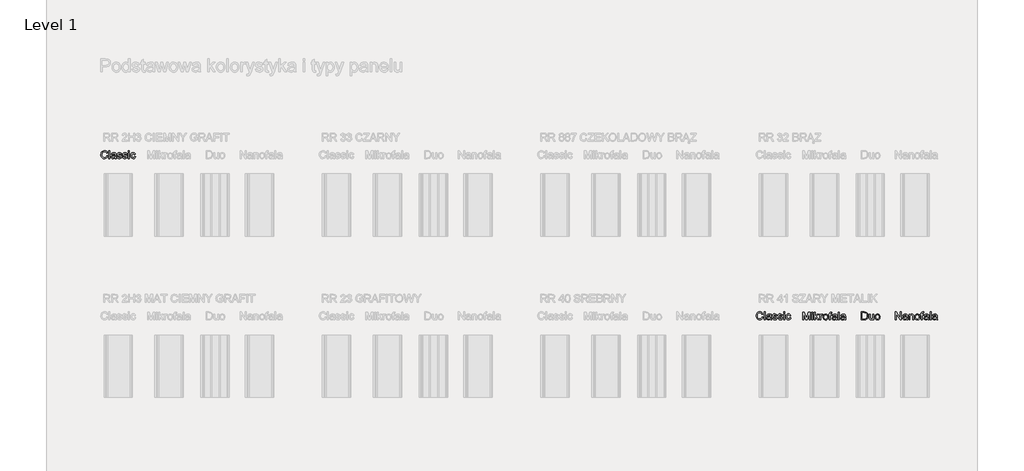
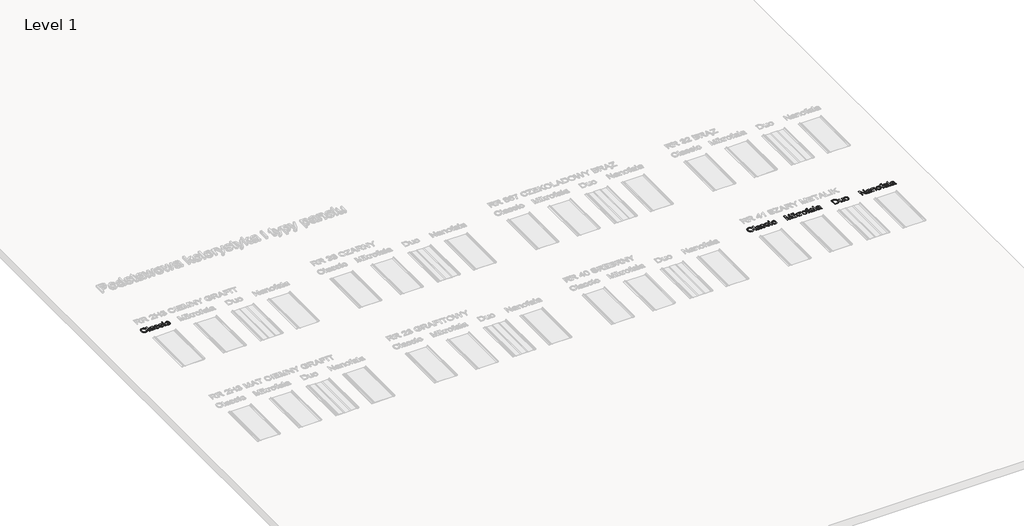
# One storey, part 16 of 22: 5 proxies.
"""IFC4 building model written with IfcOpenShell, lengths in millimetres."""

from ifc_helpers import new_model, si_unit, frame, origin, place, context, project, spatial, polyline, outline, extrude, element, save

model = new_model("IFC4")

# Units and contexts
model_context = context("Model", 3, world=origin())
ifc_project = project(units=[si_unit("LENGTHUNIT", "METRE", prefix="MILLI")], contexts=[model_context])

# Site, building, storey
site = spatial("IfcSite", under=ifc_project)
building = spatial("IfcBuilding", under=site)
storey = spatial("IfcBuildingStorey", under=building, Name="Level 1", Elevation=0.0)

# Proxies
placement = place(None, origin())
element("IfcBuildingElementProxy", 1, Name="150", ObjectType="150", at=placement, inside=storey, context=model_context, shape_type="SweptSolid", body=[
    extrude(outline(polyline([(-8679.0085992, 1182.8181359), (-8660.1730411, 1177.9620936), (-8668.8642532, 1156.013334), (-8682.5034782, 1139.9782776), (-8700.4193314, 1130.1696239), (-8721.9404281, 1126.9000726), (-8743.7880201, 1129.3740791), (-8761.1382547, 1136.7960983), (-8774.4371888, 1148.908613), (-8784.1308794, 1165.4541057), (-8790.049181, 1184.9058662), (-8792.0219482, 1205.7371842), (-8789.7916636, 1227.7089364), (-8783.1008098, 1246.6824503), (-8772.2988747, 1262.0553191), (-8757.7353462, 1273.2251362), (-8740.4632865, 1280.0263546), (-8721.5357579, 1282.2934274), (-8700.8837824, 1279.3595685), (-8683.8094593, 1270.5579918), (-8670.8462175, 1256.4313231), (-8662.5274859, 1237.5221886), (-8681.363044, 1233.0340282), (-8687.8929494, 1246.7698222), (-8696.8140878, 1256.1921998), (-8708.2368238, 1261.6414519), (-8722.2715219, 1263.4578692), (-8738.4491326, 1261.4437153), (-8751.7388697, 1255.4012536), (-8761.8234349, 1245.9650804), (-8768.38553, 1233.7697922), (-8773.18639, 1205.7739724), (-8771.7654458, 1188.373154), (-8767.5026132, 1173.3267804), (-8760.2369438, 1161.2096672), (-8749.8074892, 1152.59663), (-8737.3040999, 1147.4508806), (-8723.8166263, 1145.7356308), (-8708.0942695, 1148.0716815), (-8694.9930719, 1155.0798335), (-8685.1016448, 1166.6865104), (-8679.0085992, 1182.8181359)])), frame((0.0, 0.0, 600.0), z_axis=(0.0, 0.0, 1.0), x_axis=(1.0, 0.0, 0.0)), (0.0, 0.0, 1.0), 10.0),
    extrude(outline(polyline([(-8636.6285934, 1129.2545174), (-8636.6285934, 1279.9389826), (-8617.7930352, 1279.9389826), (-8617.7930352, 1129.2545174), (-8636.6285934, 1129.2545174)])), frame((0.0, 0.0, 600.0), z_axis=(0.0, 0.0, 1.0), x_axis=(1.0, 0.0, 0.0)), (0.0, 0.0, 1.0), 10.0),
    extrude(outline(polyline([(-8518.9063549, 1143.381186), (-8537.171696, 1130.6156808), (-8557.3500234, 1126.9000726), (-8573.0907743, 1129.1349558), (-8584.7020498, 1135.8396051), (-8591.8619531, 1146.0207393), (-8594.2485875, 1158.685077), (-8590.643344, 1173.5842978), (-8581.1703826, 1184.4000285), (-8567.9818131, 1190.580446), (-8551.6846407, 1193.4131374), (-8519.0167195, 1199.8878605), (-8518.9063549, 1204.0817152), (-8520.203139, 1212.4878188), (-8524.0934911, 1217.9876546), (-8532.7939003, 1222.0711448), (-8544.915612, 1223.4323082), (-8563.9718993, 1219.8086705), (-8573.0585846, 1206.9511948), (-8591.8941428, 1209.3056396), (-8583.7455566, 1227.6997393), (-8567.3380196, 1238.4786818), (-8542.4875908, 1242.2678663), (-8519.660513, 1238.9201402), (-8506.7662491, 1230.5140366), (-8500.9905018, 1217.7301372), (-8500.0707968, 1201.2490239), (-8500.0707968, 1177.8149408), (-8499.1143036, 1145.0918373), (-8495.3619072, 1129.2545174), (-8514.1974654, 1129.2545174), (-8518.9063549, 1143.381186)]), holes=[polyline([(-8518.9063549, 1181.0523023), (-8549.2934077, 1175.276555), (-8565.4986096, 1172.2231344), (-8572.8378554, 1167.2567275), (-8575.4130294, 1160.0094522), (-8569.802829, 1149.8191209), (-8553.3401097, 1145.7356308), (-8534.2838223, 1150.2421852), (-8521.9965637, 1161.1498864), (-8519.0167195, 1175.7180134), (-8518.9063549, 1181.0523023)])]), frame((0.0, 0.0, 600.0), z_axis=(0.0, 0.0, 1.0), x_axis=(1.0, 0.0, 0.0)), (0.0, 0.0, 1.0), 10.0),
    extrude(outline(polyline([(-8481.2352386, 1162.2167442), (-8462.3996805, 1164.5711889), (-8459.4290334, 1156.5145732), (-8453.6808772, 1150.5916731), (-8433.7048849, 1145.7356308), (-8414.5014447, 1150.1870029), (-8408.2474508, 1160.6348516), (-8409.8201463, 1165.4357116), (-8414.5382329, 1169.0961375), (-8433.9256141, 1174.4672146), (-8462.2893159, 1183.6826586), (-8474.668545, 1194.4432069), (-8478.8807939, 1209.6367334), (-8475.4962795, 1223.6714315), (-8466.2624414, 1234.3951916), (-8454.2878825, 1239.9686039), (-8438.0826806, 1242.2678663), (-8415.1636323, 1238.5706523), (-8400.5955053, 1228.564262), (-8394.1207822, 1211.6600843), (-8412.9563403, 1209.3056396), (-8420.0380687, 1219.6983059), (-8436.6111526, 1223.4323082), (-8454.6373704, 1219.8638528), (-8460.0452357, 1211.5497197), (-8457.8011555, 1206.068278), (-8450.7746094, 1201.9112115), (-8434.5510134, 1197.9012977), (-8406.9046815, 1189.0353416), (-8394.0655999, 1178.9921632), (-8389.4118926, 1162.6214144), (-8394.8749403, 1144.5951966), (-8410.6386838, 1131.5169917), (-8433.9624023, 1126.9000726), (-8452.9543103, 1129.1257587), (-8466.8142644, 1135.8028169), (-8476.0664966, 1146.8576709), (-8481.2352386, 1162.2167442)])), frame((0.0, 0.0, 600.0), z_axis=(0.0, 0.0, 1.0), x_axis=(1.0, 0.0, 0.0)), (0.0, 0.0, 1.0), 10.0),
    extrude(outline(polyline([(-8375.285224, 1162.2167442), (-8356.4496659, 1164.5711889), (-8353.4790188, 1156.5145732), (-8347.7308626, 1150.5916731), (-8327.7548702, 1145.7356308), (-8308.5514301, 1150.1870029), (-8302.2974362, 1160.6348516), (-8303.8701317, 1165.4357116), (-8308.5882183, 1169.0961375), (-8327.9755994, 1174.4672146), (-8356.3393013, 1183.6826586), (-8368.7185304, 1194.4432069), (-8372.9307793, 1209.6367334), (-8369.5462649, 1223.6714315), (-8360.3124268, 1234.3951916), (-8348.3378679, 1239.9686039), (-8332.132666, 1242.2678663), (-8309.2136177, 1238.5706523), (-8294.6454907, 1228.564262), (-8288.1707676, 1211.6600843), (-8307.0063257, 1209.3056396), (-8314.0880541, 1219.6983059), (-8330.661138, 1223.4323082), (-8348.6873558, 1219.8638528), (-8354.0952211, 1211.5497197), (-8351.8511409, 1206.068278), (-8344.8245948, 1201.9112115), (-8328.6009988, 1197.9012977), (-8300.9546669, 1189.0353416), (-8288.1155853, 1178.9921632), (-8283.461878, 1162.6214144), (-8288.9249257, 1144.5951966), (-8304.6886691, 1131.5169917), (-8328.0123876, 1126.9000726), (-8347.0042956, 1129.1257587), (-8360.8642498, 1135.8028169), (-8370.116482, 1146.8576709), (-8375.285224, 1162.2167442)])), frame((0.0, 0.0, 600.0), z_axis=(0.0, 0.0, 1.0), x_axis=(1.0, 0.0, 0.0)), (0.0, 0.0, 1.0), 10.0),
    extrude(outline(polyline([(-8262.2718751, 1261.1034245), (-8262.2718751, 1279.9389826), (-8243.4363169, 1279.9389826), (-8243.4363169, 1261.1034245), (-8262.2718751, 1261.1034245)])), frame((0.0, 0.0, 600.0), z_axis=(0.0, 0.0, 1.0), x_axis=(1.0, 0.0, 0.0)), (0.0, 0.0, 1.0), 10.0),
    extrude(outline(polyline([(-8262.2718751, 1129.2545174), (-8262.2718751, 1239.9134216), (-8243.4363169, 1239.9134216), (-8243.4363169, 1129.2545174), (-8262.2718751, 1129.2545174)])), frame((0.0, 0.0, 600.0), z_axis=(0.0, 0.0, 1.0), x_axis=(1.0, 0.0, 0.0)), (0.0, 0.0, 1.0), 10.0),
    extrude(outline(polyline([(-8144.5496366, 1169.2800785), (-8125.7140785, 1166.9256337), (-8130.965594, 1150.1732074), (-8140.8340285, 1137.5134682), (-8154.39048, 1129.5534215), (-8170.7060465, 1126.9000726), (-8190.7418197, 1130.6018852), (-8206.4089941, 1141.7073229), (-8216.5211505, 1159.7289422), (-8219.8918693, 1184.1792993), (-8218.452531, 1200.9409227), (-8214.134516, 1215.467663), (-8206.8688466, 1227.1985001), (-8196.5865449, 1235.572414), (-8184.2854906, 1240.5940032), (-8170.9635639, 1242.2678663), (-8155.0480691, 1239.9686039), (-8142.3239506, 1233.0708164), (-8133.1958786, 1221.9423861), (-8128.0685233, 1206.9511948), (-8146.9040814, 1204.59675), (-8155.6412788, 1218.7050245), (-8170.8164111, 1223.4323082), (-8182.9887066, 1221.1054546), (-8192.6502075, 1214.1248937), (-8198.9547852, 1202.1135465), (-8201.0563111, 1184.6943341), (-8199.0007705, 1167.0405968), (-8192.8341485, 1154.987863), (-8183.3473916, 1148.0486888), (-8171.3314459, 1145.7356308), (-8161.5779745, 1147.1795676), (-8153.5811396, 1151.5113781), (-8147.7640056, 1158.8414269), (-8144.5496366, 1169.2800785)])), frame((0.0, 0.0, 600.0), z_axis=(0.0, 0.0, 1.0), x_axis=(1.0, 0.0, 0.0)), (0.0, 0.0, 1.0), 10.0),
])
element("IfcBuildingElementProxy", 2, Name="150", ObjectType="150", at=placement, inside=storey, context=model_context, shape_type="SweptSolid", body=[
    extrude(outline(polyline([(3920.9914008, -1917.1818641), (3939.8269589, -1922.0379064), (3931.1357468, -1943.986666), (3917.4965218, -1960.0217224), (3899.5806686, -1969.8303761), (3878.0595719, -1973.0999274), (3856.2119799, -1970.6259209), (3838.8617453, -1963.2039017), (3825.5628112, -1951.091387), (3815.8691206, -1934.5458943), (3809.950819, -1915.0941338), (3807.9780518, -1894.2628158), (3810.2083364, -1872.2910636), (3816.8991902, -1853.3175497), (3827.7011253, -1837.9446809), (3842.2646538, -1826.7748638), (3859.5367135, -1819.9736454), (3878.4642421, -1817.7065726), (3899.1162176, -1820.6404315), (3916.1905407, -1829.4420082), (3929.1537825, -1843.5686769), (3937.4725141, -1862.4778114), (3918.636956, -1866.9659718), (3912.1070506, -1853.2301778), (3903.1859122, -1843.8078002), (3891.7631762, -1838.3585481), (3877.7284781, -1836.5421308), (3861.5508674, -1838.5562847), (3848.2611303, -1844.5987464), (3838.1765651, -1854.0349196), (3831.61447, -1866.2302078), (3826.81361, -1894.2260276), (3828.2345542, -1911.626846), (3832.4973868, -1926.6732196), (3839.7630562, -1938.7903328), (3850.1925108, -1947.40337), (3862.6959001, -1952.5491194), (3876.1833737, -1954.2643692), (3891.9057305, -1951.9283185), (3905.0069281, -1944.9201665), (3914.8983552, -1933.3134896), (3920.9914008, -1917.1818641)])), frame((0.0, 0.0, 600.0), z_axis=(0.0, 0.0, 1.0), x_axis=(1.0, 0.0, 0.0)), (0.0, 0.0, 1.0), 10.0),
    extrude(outline(polyline([(3963.3714066, -1970.7454826), (3963.3714066, -1820.0610174), (3982.2069648, -1820.0610174), (3982.2069648, -1970.7454826), (3963.3714066, -1970.7454826)])), frame((0.0, 0.0, 600.0), z_axis=(0.0, 0.0, 1.0), x_axis=(1.0, 0.0, 0.0)), (0.0, 0.0, 1.0), 10.0),
    extrude(outline(polyline([(4081.0936451, -1956.618814), (4062.828304, -1969.3843192), (4042.6499766, -1973.0999274), (4026.9092257, -1970.8650442), (4015.2979502, -1964.1603949), (4008.1380469, -1953.9792607), (4005.7514125, -1941.314923), (4009.356656, -1926.4157022), (4018.8296174, -1915.5999715), (4032.0181869, -1909.419554), (4048.3153593, -1906.5868626), (4080.9832805, -1900.1121395), (4081.0936451, -1895.9182848), (4079.796861, -1887.5121812), (4075.9065089, -1882.0123454), (4067.2060997, -1877.9288552), (4055.084388, -1876.5676918), (4036.0281007, -1880.1913295), (4026.9414154, -1893.0488052), (4008.1058572, -1890.6943604), (4016.2544434, -1872.3002607), (4032.6619804, -1861.5213182), (4057.5124092, -1857.7321337), (4080.339487, -1861.0798598), (4093.2337509, -1869.4859634), (4099.0094982, -1882.2698628), (4099.9292032, -1898.7509761), (4099.9292032, -1922.1850592), (4100.8856964, -1954.9081627), (4104.6380928, -1970.7454826), (4085.8025346, -1970.7454826), (4081.0936451, -1956.618814)]), holes=[polyline([(4081.0936451, -1918.9476977), (4050.7065923, -1924.723445), (4034.5013904, -1927.7768656), (4027.1621446, -1932.7432725), (4024.5869706, -1939.9905478), (4030.197171, -1950.1808791), (4046.6598903, -1954.2643692), (4065.7161777, -1949.7578148), (4078.0034363, -1938.8501136), (4080.9832805, -1924.2819866), (4081.0936451, -1918.9476977)])]), frame((0.0, 0.0, 600.0), z_axis=(0.0, 0.0, 1.0), x_axis=(1.0, 0.0, 0.0)), (0.0, 0.0, 1.0), 10.0),
    extrude(outline(polyline([(4118.7647614, -1937.7832558), (4137.6003195, -1935.4288111), (4140.5709666, -1943.4854268), (4146.3191228, -1949.4083269), (4166.2951151, -1954.2643692), (4185.4985553, -1949.8129971), (4191.7525492, -1939.3651484), (4190.1798537, -1934.5642884), (4185.4617671, -1930.9038625), (4166.0743859, -1925.5327854), (4137.7106841, -1916.3173414), (4125.331455, -1905.5567931), (4121.1192061, -1890.3632666), (4124.5037205, -1876.3285685), (4133.7375586, -1865.6048084), (4145.7121175, -1860.0313961), (4161.9173194, -1857.7321337), (4184.8363677, -1861.4293477), (4199.4044947, -1871.435738), (4205.8792178, -1888.3399157), (4187.0436597, -1890.6943604), (4179.9619313, -1880.3016941), (4163.3888474, -1876.5676918), (4145.3626296, -1880.1361472), (4139.9547643, -1888.4502803), (4142.1988445, -1893.931722), (4149.2253906, -1898.0887885), (4165.4489866, -1902.0987023), (4193.0953185, -1910.9646584), (4205.9344001, -1921.0078368), (4210.5881074, -1937.3785856), (4205.1250597, -1955.4048034), (4189.3613162, -1968.4830083), (4166.0375977, -1973.0999274), (4147.0456897, -1970.8742413), (4133.1857356, -1964.1971831), (4123.9335034, -1953.1423291), (4118.7647614, -1937.7832558)])), frame((0.0, 0.0, 600.0), z_axis=(0.0, 0.0, 1.0), x_axis=(1.0, 0.0, 0.0)), (0.0, 0.0, 1.0), 10.0),
    extrude(outline(polyline([(4224.714776, -1937.7832558), (4243.5503341, -1935.4288111), (4246.5209812, -1943.4854268), (4252.2691374, -1949.4083269), (4272.2451298, -1954.2643692), (4291.4485699, -1949.8129971), (4297.7025638, -1939.3651484), (4296.1298683, -1934.5642884), (4291.4117817, -1930.9038625), (4272.0244006, -1925.5327854), (4243.6606987, -1916.3173414), (4231.2814696, -1905.5567931), (4227.0692207, -1890.3632666), (4230.4537351, -1876.3285685), (4239.6875732, -1865.6048084), (4251.6621321, -1860.0313961), (4267.867334, -1857.7321337), (4290.7863823, -1861.4293477), (4305.3545093, -1871.435738), (4311.8292324, -1888.3399157), (4292.9936743, -1890.6943604), (4285.9119459, -1880.3016941), (4269.338862, -1876.5676918), (4251.3126442, -1880.1361472), (4245.9047789, -1888.4502803), (4248.1488591, -1893.931722), (4255.1754052, -1898.0887885), (4271.3990012, -1902.0987023), (4299.0453331, -1910.9646584), (4311.8844147, -1921.0078368), (4316.538122, -1937.3785856), (4311.0750743, -1955.4048034), (4295.3113309, -1968.4830083), (4271.9876124, -1973.0999274), (4252.9957044, -1970.8742413), (4239.1357502, -1964.1971831), (4229.883518, -1953.1423291), (4224.714776, -1937.7832558)])), frame((0.0, 0.0, 600.0), z_axis=(0.0, 0.0, 1.0), x_axis=(1.0, 0.0, 0.0)), (0.0, 0.0, 1.0), 10.0),
    extrude(outline(polyline([(4337.7281249, -1838.8965755), (4337.7281249, -1820.0610174), (4356.5636831, -1820.0610174), (4356.5636831, -1838.8965755), (4337.7281249, -1838.8965755)])), frame((0.0, 0.0, 600.0), z_axis=(0.0, 0.0, 1.0), x_axis=(1.0, 0.0, 0.0)), (0.0, 0.0, 1.0), 10.0),
    extrude(outline(polyline([(4337.7281249, -1970.7454826), (4337.7281249, -1860.0865784), (4356.5636831, -1860.0865784), (4356.5636831, -1970.7454826), (4337.7281249, -1970.7454826)])), frame((0.0, 0.0, 600.0), z_axis=(0.0, 0.0, 1.0), x_axis=(1.0, 0.0, 0.0)), (0.0, 0.0, 1.0), 10.0),
    extrude(outline(polyline([(4455.4503634, -1930.7199215), (4474.2859215, -1933.0743663), (4469.034406, -1949.8267926), (4459.1659715, -1962.4865318), (4445.60952, -1970.4465785), (4429.2939535, -1973.0999274), (4409.2581803, -1969.3981148), (4393.5910059, -1958.2926771), (4383.4788495, -1940.2710578), (4380.1081307, -1915.8207007), (4381.547469, -1899.0590773), (4385.865484, -1884.532337), (4393.1311534, -1872.8014999), (4403.4134551, -1864.427586), (4415.7145094, -1859.4059968), (4429.0364361, -1857.7321337), (4444.9519309, -1860.0313961), (4457.6760494, -1866.9291836), (4466.8041214, -1878.0576139), (4471.9314767, -1893.0488052), (4453.0959186, -1895.40325), (4444.3587212, -1881.2949755), (4429.1835889, -1876.5676918), (4417.0112934, -1878.8945454), (4407.3497925, -1885.8751063), (4401.0452148, -1897.8864535), (4398.9436889, -1915.3056659), (4400.9992295, -1932.9594032), (4407.1658515, -1945.012137), (4416.6526084, -1951.9513112), (4428.6685541, -1954.2643692), (4438.4220255, -1952.8204324), (4446.4188604, -1948.4886219), (4452.2359944, -1941.1585731), (4455.4503634, -1930.7199215)])), frame((0.0, 0.0, 600.0), z_axis=(0.0, 0.0, 1.0), x_axis=(1.0, 0.0, 0.0)), (0.0, 0.0, 1.0), 10.0),
])
element("IfcBuildingElementProxy", 3, Name="150", ObjectType="150", at=placement, inside=storey, context=model_context, shape_type="SweptSolid", body=[
    extrude(outline(polyline([(4704.3345041, -1975.281387), (4704.3345041, -1824.5969218), (4736.6345432, -1824.5969218), (4767.5366308, -1930.8044538), (4773.7906247, -1952.9877381), (4780.5228653, -1928.9650438), (4810.8363417, -1824.5969218), (4843.2467454, -1824.5969218), (4843.2467454, -1975.281387), (4824.4111873, -1975.281387), (4824.4111873, -1843.4324799), (4786.55613, -1975.281387), (4761.0619077, -1975.281387), (4723.1700622, -1843.4324799), (4723.1700622, -1975.281387), (4704.3345041, -1975.281387)])), frame((0.0, 0.0, 600.0), z_axis=(0.0, 0.0, 1.0), x_axis=(1.0, 0.0, 0.0)), (0.0, 0.0, 1.0), 10.0),
    extrude(outline(polyline([(4873.8545274, -1843.4324799), (4873.8545274, -1824.5969218), (4892.6900856, -1824.5969218), (4892.6900856, -1843.4324799), (4873.8545274, -1843.4324799)])), frame((0.0, 0.0, 600.0), z_axis=(0.0, 0.0, 1.0), x_axis=(1.0, 0.0, 0.0)), (0.0, 0.0, 1.0), 10.0),
    extrude(outline(polyline([(4873.8545274, -1975.281387), (4873.8545274, -1864.6224829), (4892.6900856, -1864.6224829), (4892.6900856, -1975.281387), (4873.8545274, -1975.281387)])), frame((0.0, 0.0, 600.0), z_axis=(0.0, 0.0, 1.0), x_axis=(1.0, 0.0, 0.0)), (0.0, 0.0, 1.0), 10.0),
    extrude(outline(polyline([(4920.9434228, -1975.281387), (4920.9434228, -1824.5969218), (4939.778981, -1824.5969218), (4939.778981, -1905.5677489), (4982.011834, -1864.6224829), (5008.0578793, -1864.6224829), (4965.2732032, -1906.0827837), (5010.412324, -1975.281387), (4988.4129807, -1975.281387), (4951.771934, -1919.1793827), (4939.778981, -1930.841242), (4939.778981, -1975.281387), (4920.9434228, -1975.281387)])), frame((0.0, 0.0, 600.0), z_axis=(0.0, 0.0, 1.0), x_axis=(1.0, 0.0, 0.0)), (0.0, 0.0, 1.0), 10.0),
    extrude(outline(polyline([(5026.8934374, -1975.281387), (5026.8934374, -1864.6224829), (5043.3745508, -1864.6224829), (5043.3745508, -1880.9932316), (5055.0731983, -1865.9100698), (5066.8454221, -1862.2680381), (5085.7545567, -1868.0805736), (5079.4637745, -1884.9663572), (5066.2200227, -1881.1035962), (5055.5698389, -1884.8192044), (5048.7824161, -1895.1199003), (5045.7289956, -1917.1192436), (5045.7289956, -1975.281387), (5026.8934374, -1975.281387)])), frame((0.0, 0.0, 600.0), z_axis=(0.0, 0.0, 1.0), x_axis=(1.0, 0.0, 0.0)), (0.0, 0.0, 1.0), 10.0),
    extrude(outline(polyline([(5092.817891, -1919.9519349), (5096.8921841, -1893.2712932), (5109.1150633, -1874.5185085), (5124.2166192, -1865.3306557), (5142.2980193, -1862.2680381), (5162.0854721, -1865.9974418), (5177.8906023, -1877.185653), (5188.251079, -1894.9497548), (5191.7045713, -1918.4068306), (5190.177861, -1937.4355268), (5185.5977301, -1951.9208803), (5178.097536, -1962.7688007), (5167.8106357, -1970.8851972), (5155.5923549, -1975.9481731), (5142.2980193, -1977.6358318), (5122.2714432, -1973.9202236), (5106.4847071, -1962.7733992), (5096.234595, -1944.6368168), (5092.817891, -1919.9519349)]), holes=[polyline([(5111.6534491, -1919.9151467), (5113.8331499, -1936.9618787), (5120.3722524, -1949.1065831), (5130.2130958, -1956.376851), (5142.2980193, -1958.8002736), (5154.3277606, -1956.3630554), (5164.1502098, -1949.0514008), (5170.6893123, -1936.745748), (5172.8690131, -1919.3265355), (5170.6755167, -1902.7764443), (5164.0950275, -1890.7972868), (5154.2587827, -1883.5270189), (5142.2980193, -1881.1035962), (5130.2130958, -1883.5178218), (5120.3722524, -1890.7604986), (5113.8331499, -1902.8776118), (5111.6534491, -1919.9151467)])]), frame((0.0, 0.0, 600.0), z_axis=(0.0, 0.0, 1.0), x_axis=(1.0, 0.0, 0.0)), (0.0, 0.0, 1.0), 10.0),
    extrude(outline(polyline([(5217.6034637, -1975.281387), (5217.6034637, -1883.458041), (5201.1223503, -1883.458041), (5201.1223503, -1864.6224829), (5217.6034637, -1864.6224829), (5217.6034637, -1853.4756584), (5219.5900265, -1837.7670972), (5229.2285348, -1826.5466964), (5248.2112457, -1822.242477), (5265.3913349, -1824.3026162), (5262.6322199, -1841.960952), (5251.7797011, -1841.0780352), (5239.9155067, -1844.2050321), (5236.4390219, -1855.8668914), (5236.4390219, -1864.6224829), (5257.6290248, -1864.6224829), (5257.6290248, -1883.458041), (5236.4390219, -1883.458041), (5236.4390219, -1975.281387), (5217.6034637, -1975.281387)])), frame((0.0, 0.0, 600.0), z_axis=(0.0, 0.0, 1.0), x_axis=(1.0, 0.0, 0.0)), (0.0, 0.0, 1.0), 10.0),
    extrude(outline(polyline([(5344.7434813, -1961.1547184), (5326.4781402, -1973.9202236), (5306.2998128, -1977.6358318), (5290.5590619, -1975.4009487), (5278.9477864, -1968.6962993), (5271.7878831, -1958.5151651), (5269.4012486, -1945.8508274), (5273.0064922, -1930.9516066), (5282.4794536, -1920.1358759), (5295.6680231, -1913.9554584), (5311.9651955, -1911.1227671), (5344.6331167, -1904.6480439), (5344.7434813, -1900.4541892), (5343.4466972, -1892.0480856), (5339.5563451, -1886.5482498), (5330.8559359, -1882.4647596), (5318.7342242, -1881.1035962), (5299.6779368, -1884.7272339), (5290.5912516, -1897.5847096), (5271.7556934, -1895.2302649), (5279.9042796, -1876.8361651), (5296.3118166, -1866.0572226), (5321.1622454, -1862.2680381), (5343.9893232, -1865.6157643), (5356.8835871, -1874.0218678), (5362.6593344, -1886.8057672), (5363.5790394, -1903.2868806), (5363.5790394, -1926.7209636), (5364.5355326, -1959.4440671), (5368.2879289, -1975.281387), (5349.4523708, -1975.281387), (5344.7434813, -1961.1547184)]), holes=[polyline([(5344.7434813, -1923.4836021), (5314.3564285, -1929.2593494), (5298.1512266, -1932.31277), (5290.8119808, -1937.2791769), (5288.2368068, -1944.5264522), (5293.8470072, -1954.7167835), (5310.3097265, -1958.8002736), (5329.3660139, -1954.2937192), (5341.6532725, -1943.386018), (5344.6331167, -1928.817891), (5344.7434813, -1923.4836021)])]), frame((0.0, 0.0, 600.0), z_axis=(0.0, 0.0, 1.0), x_axis=(1.0, 0.0, 0.0)), (0.0, 0.0, 1.0), 10.0),
    extrude(outline(polyline([(5389.4779319, -1975.281387), (5389.4779319, -1824.5969218), (5408.31349, -1824.5969218), (5408.31349, -1975.281387), (5389.4779319, -1975.281387)])), frame((0.0, 0.0, 600.0), z_axis=(0.0, 0.0, 1.0), x_axis=(1.0, 0.0, 0.0)), (0.0, 0.0, 1.0), 10.0),
    extrude(outline(polyline([(5507.2001703, -1961.1547184), (5488.9348293, -1973.9202236), (5468.7565018, -1977.6358318), (5453.015751, -1975.4009487), (5441.4044755, -1968.6962993), (5434.2445722, -1958.5151651), (5431.8579377, -1945.8508274), (5435.4631813, -1930.9516066), (5444.9361426, -1920.1358759), (5458.1247122, -1913.9554584), (5474.4218846, -1911.1227671), (5507.0898057, -1904.6480439), (5507.2001703, -1900.4541892), (5505.9033863, -1892.0480856), (5502.0130342, -1886.5482498), (5493.312625, -1882.4647596), (5481.1909133, -1881.1035962), (5462.1346259, -1884.7272339), (5453.0479406, -1897.5847096), (5434.2123825, -1895.2302649), (5442.3609687, -1876.8361651), (5458.7685057, -1866.0572226), (5483.6189344, -1862.2680381), (5506.4460122, -1865.6157643), (5519.3402762, -1874.0218678), (5525.1160235, -1886.8057672), (5526.0357285, -1903.2868806), (5526.0357285, -1926.7209636), (5526.9922217, -1959.4440671), (5530.744618, -1975.281387), (5511.9090599, -1975.281387), (5507.2001703, -1961.1547184)]), holes=[polyline([(5507.2001703, -1923.4836021), (5476.8131175, -1929.2593494), (5460.6079156, -1932.31277), (5453.2686698, -1937.2791769), (5450.6934959, -1944.5264522), (5456.3036963, -1954.7167835), (5472.7664156, -1958.8002736), (5491.8227029, -1954.2937192), (5504.1099616, -1943.386018), (5507.0898057, -1928.817891), (5507.2001703, -1923.4836021)])]), frame((0.0, 0.0, 600.0), z_axis=(0.0, 0.0, 1.0), x_axis=(1.0, 0.0, 0.0)), (0.0, 0.0, 1.0), 10.0),
])
element("IfcBuildingElementProxy", 4, Name="150", ObjectType="150", at=placement, inside=storey, context=model_context, shape_type="SweptSolid", body=[
    extrude(outline(polyline([(5832.4192925, -1972.1592468), (5832.4192925, -1821.4747816), (5884.4010184, -1821.4747816), (5911.2931923, -1823.6452853), (5933.4396884, -1834.4242278), (5943.8599459, -1845.902146), (5951.2819651, -1860.1759675), (5955.7241402, -1876.9697805), (5957.2048653, -1896.0076738), (5953.1949515, -1926.4131207), (5942.8942557, -1948.3572817), (5929.135469, -1962.0240978), (5911.1276454, -1969.5840728), (5886.902616, -1972.1592468), (5832.4192925, -1972.1592468)]), holes=[polyline([(5851.2548507, -1953.3236886), (5884.5849594, -1953.3236886), (5908.8283829, -1950.6013619), (5922.8078987, -1942.9126282), (5934.2674229, -1924.2058287), (5938.3693071, -1895.7133682), (5936.3597517, -1875.1855529), (5930.3310855, -1860.0288147), (5921.4237427, -1849.6177542), (5910.7781575, -1843.3269721), (5884.0699246, -1840.3103397), (5851.2548507, -1840.3103397), (5851.2548507, -1953.3236886)])]), frame((0.0, 0.0, 600.0), z_axis=(0.0, 0.0, 1.0), x_axis=(1.0, 0.0, 0.0)), (0.0, 0.0, 1.0), 10.0),
    extrude(outline(polyline([(6051.382656, -1972.1592468), (6051.382656, -1953.1397476), (6036.630588, -1969.1702056), (6017.3903597, -1974.5136916), (5999.6768416, -1970.7612952), (5987.4631594, -1961.3435161), (5981.8529589, -1947.4743649), (5980.749313, -1929.9631819), (5980.749313, -1861.5003426), (5999.5848711, -1861.5003426), (5999.5848711, -1921.0972259), (6000.7253053, -1940.300666), (6008.1749157, -1951.5762492), (6022.2096138, -1955.6781334), (6037.9365691, -1951.4842787), (6048.3292355, -1940.0615427), (6051.382656, -1919.0738749), (6051.382656, -1861.5003426), (6070.2182142, -1861.5003426), (6070.2182142, -1972.1592468), (6051.382656, -1972.1592468)])), frame((0.0, 0.0, 600.0), z_axis=(0.0, 0.0, 1.0), x_axis=(1.0, 0.0, 0.0)), (0.0, 0.0, 1.0), 10.0),
    extrude(outline(polyline([(6091.4082171, -1916.8297947), (6095.4825102, -1890.149153), (6107.7053895, -1871.3963683), (6122.8069454, -1862.2085155), (6140.8883455, -1859.1458979), (6160.6757983, -1862.8753016), (6176.4809285, -1874.0635128), (6186.8414052, -1891.8276146), (6190.2948974, -1915.2846903), (6188.7681871, -1934.3133865), (6184.1880563, -1948.7987401), (6176.6878621, -1959.6466604), (6166.4009618, -1967.7630569), (6154.1826811, -1972.8260329), (6140.8883455, -1974.5136916), (6120.8617693, -1970.7980834), (6105.0750332, -1959.651259), (6094.8249211, -1941.5146766), (6091.4082171, -1916.8297947)]), holes=[polyline([(6110.2437753, -1916.7930065), (6112.4234761, -1933.8397385), (6118.9625785, -1945.9844428), (6128.8034219, -1953.2547108), (6140.8883455, -1955.6781334), (6152.9180867, -1953.2409152), (6162.740536, -1945.9292605), (6169.2796384, -1933.6236078), (6171.4593393, -1916.2043953), (6169.2658429, -1899.6543041), (6162.6853537, -1887.6751466), (6152.8491088, -1880.4048787), (6140.8883455, -1877.981456), (6128.8034219, -1880.3956816), (6118.9625785, -1887.6383584), (6112.4234761, -1899.7554716), (6110.2437753, -1916.7930065)])]), frame((0.0, 0.0, 600.0), z_axis=(0.0, 0.0, 1.0), x_axis=(1.0, 0.0, 0.0)), (0.0, 0.0, 1.0), 10.0),
])
element("IfcBuildingElementProxy", 5, Name="150", ObjectType="150", at=placement, inside=storey, context=model_context, shape_type="SweptSolid", body=[
    extrude(outline(polyline([(6483.2193428, -1972.1592468), (6483.2193428, -1821.4747816), (6503.3792761, -1821.4747816), (6582.1060231, -1940.852489), (6582.1060231, -1821.4747816), (6600.9415812, -1821.4747816), (6600.9415812, -1972.1592468), (6580.7816479, -1972.1592468), (6502.0549009, -1852.7447512), (6502.0549009, -1972.1592468), (6483.2193428, -1972.1592468)])), frame((0.0, 0.0, 600.0), z_axis=(0.0, 0.0, 1.0), x_axis=(1.0, 0.0, 0.0)), (0.0, 0.0, 1.0), 10.0),
    extrude(outline(polyline([(6702.1827063, -1958.0325782), (6683.9173653, -1970.7980834), (6663.7390378, -1974.5136916), (6647.998287, -1972.2788084), (6636.3870115, -1965.5741591), (6629.2271081, -1955.3930249), (6626.8404737, -1942.7286872), (6630.4457173, -1927.8294664), (6639.9186786, -1917.0137357), (6653.1072482, -1910.8333182), (6669.4044205, -1908.0006268), (6702.0723417, -1901.5259037), (6702.1827063, -1897.332049), (6700.8859223, -1888.9259454), (6696.9955702, -1883.4261096), (6688.295161, -1879.3426194), (6676.1734493, -1877.981456), (6657.1171619, -1881.6050937), (6648.0304766, -1894.4625694), (6629.1949185, -1892.1081246), (6637.3435047, -1873.7140249), (6653.7510417, -1862.9350824), (6678.6014704, -1859.1458979), (6701.4285482, -1862.493624), (6714.3228122, -1870.8997276), (6720.0985595, -1883.683627), (6721.0182645, -1900.1647403), (6721.0182645, -1923.5988234), (6721.9747577, -1956.3219269), (6725.727154, -1972.1592468), (6706.8915959, -1972.1592468), (6702.1827063, -1958.0325782)]), holes=[polyline([(6702.1827063, -1920.3614619), (6671.7956535, -1926.1372092), (6655.5904516, -1929.1906298), (6648.2512058, -1934.1570367), (6645.6760319, -1941.404312), (6651.2862323, -1951.5946433), (6667.7489516, -1955.6781334), (6686.8052389, -1951.171579), (6699.0924976, -1940.2638778), (6702.0723417, -1925.6957508), (6702.1827063, -1920.3614619)])]), frame((0.0, 0.0, 600.0), z_axis=(0.0, 0.0, 1.0), x_axis=(1.0, 0.0, 0.0)), (0.0, 0.0, 1.0), 10.0),
    extrude(outline(polyline([(6746.9171569, -1972.1592468), (6746.9171569, -1861.5003426), (6765.7527151, -1861.5003426), (6765.7527151, -1876.9513864), (6780.1552952, -1863.59727), (6799.8185878, -1859.1458979), (6817.6056823, -1862.7327473), (6829.7457881, -1872.1505264), (6835.3927768, -1886.0012835), (6836.3860582, -1904.2114423), (6836.3860582, -1972.1592468), (6817.5505, -1972.1592468), (6817.5505, -1906.749828), (6815.3799962, -1890.0847737), (6807.7096566, -1881.2739999), (6794.7786045, -1877.981456), (6783.7467432, -1879.8300631), (6774.3427597, -1885.3758841), (6767.9002262, -1896.0904472), (6765.7527151, -1913.4452804), (6765.7527151, -1972.1592468), (6746.9171569, -1972.1592468)])), frame((0.0, 0.0, 600.0), z_axis=(0.0, 0.0, 1.0), x_axis=(1.0, 0.0, 0.0)), (0.0, 0.0, 1.0), 10.0),
    extrude(outline(polyline([(6857.5760611, -1916.8297947), (6861.6503542, -1890.149153), (6873.8732335, -1871.3963683), (6888.9747894, -1862.2085155), (6907.0561894, -1859.1458979), (6926.8436422, -1862.8753016), (6942.6487725, -1874.0635128), (6953.0092492, -1891.8276146), (6956.4627414, -1915.2846903), (6954.9360311, -1934.3133865), (6950.3559003, -1948.7987401), (6942.8557061, -1959.6466604), (6932.5688058, -1967.7630569), (6920.350525, -1972.8260329), (6907.0561894, -1974.5136916), (6887.0296133, -1970.7980834), (6871.2428772, -1959.651259), (6860.9927651, -1941.5146766), (6857.5760611, -1916.8297947)]), holes=[polyline([(6876.4116192, -1916.7930065), (6878.5913201, -1933.8397385), (6885.1304225, -1945.9844428), (6894.9712659, -1953.2547108), (6907.0561894, -1955.6781334), (6919.0859307, -1953.2409152), (6928.9083799, -1945.9292605), (6935.4474824, -1933.6236078), (6937.6271832, -1916.2043953), (6935.4336868, -1899.6543041), (6928.8531976, -1887.6751466), (6919.0169528, -1880.4048787), (6907.0561894, -1877.981456), (6894.9712659, -1880.3956816), (6885.1304225, -1887.6383584), (6878.5913201, -1899.7554716), (6876.4116192, -1916.7930065)])]), frame((0.0, 0.0, 600.0), z_axis=(0.0, 0.0, 1.0), x_axis=(1.0, 0.0, 0.0)), (0.0, 0.0, 1.0), 10.0),
    extrude(outline(polyline([(6982.3616338, -1972.1592468), (6982.3616338, -1880.3359008), (6965.8805205, -1880.3359008), (6965.8805205, -1861.5003426), (6982.3616338, -1861.5003426), (6982.3616338, -1850.3535182), (6984.3481966, -1834.644957), (6993.9867049, -1823.4245561), (7012.9694158, -1819.1203368), (7030.149505, -1821.180476), (7027.3903901, -1838.8388117), (7016.5378712, -1837.955895), (7004.6736769, -1841.0828919), (7001.197192, -1852.7447512), (7001.197192, -1861.5003426), (7022.3871949, -1861.5003426), (7022.3871949, -1880.3359008), (7001.197192, -1880.3359008), (7001.197192, -1972.1592468), (6982.3616338, -1972.1592468)])), frame((0.0, 0.0, 600.0), z_axis=(0.0, 0.0, 1.0), x_axis=(1.0, 0.0, 0.0)), (0.0, 0.0, 1.0), 10.0),
    extrude(outline(polyline([(7109.5016514, -1958.0325782), (7091.2363103, -1970.7980834), (7071.0579829, -1974.5136916), (7055.317232, -1972.2788084), (7043.7059565, -1965.5741591), (7036.5460532, -1955.3930249), (7034.1594188, -1942.7286872), (7037.7646623, -1927.8294664), (7047.2376237, -1917.0137357), (7060.4261932, -1910.8333182), (7076.7233656, -1908.0006268), (7109.3912868, -1901.5259037), (7109.5016514, -1897.332049), (7108.2048673, -1888.9259454), (7104.3145152, -1883.4261096), (7095.6141061, -1879.3426194), (7083.4923943, -1877.981456), (7064.436107, -1881.6050937), (7055.3494217, -1894.4625694), (7036.5138635, -1892.1081246), (7044.6624497, -1873.7140249), (7061.0699867, -1862.9350824), (7085.9204155, -1859.1458979), (7108.7474933, -1862.493624), (7121.6417572, -1870.8997276), (7127.4175045, -1883.683627), (7128.3372095, -1900.1647403), (7128.3372095, -1923.5988234), (7129.2937027, -1956.3219269), (7133.0460991, -1972.1592468), (7114.2105409, -1972.1592468), (7109.5016514, -1958.0325782)]), holes=[polyline([(7109.5016514, -1920.3614619), (7079.1145986, -1926.1372092), (7062.9093967, -1929.1906298), (7055.5701509, -1934.1570367), (7052.9949769, -1941.404312), (7058.6051773, -1951.5946433), (7075.0678966, -1955.6781334), (7094.124184, -1951.171579), (7106.4114426, -1940.2638778), (7109.3912868, -1925.6957508), (7109.5016514, -1920.3614619)])]), frame((0.0, 0.0, 600.0), z_axis=(0.0, 0.0, 1.0), x_axis=(1.0, 0.0, 0.0)), (0.0, 0.0, 1.0), 10.0),
    extrude(outline(polyline([(7154.236102, -1972.1592468), (7154.236102, -1821.4747816), (7173.0716601, -1821.4747816), (7173.0716601, -1972.1592468), (7154.236102, -1972.1592468)])), frame((0.0, 0.0, 600.0), z_axis=(0.0, 0.0, 1.0), x_axis=(1.0, 0.0, 0.0)), (0.0, 0.0, 1.0), 10.0),
    extrude(outline(polyline([(7271.9583404, -1958.0325782), (7253.6929994, -1970.7980834), (7233.514672, -1974.5136916), (7217.7739211, -1972.2788084), (7206.1626456, -1965.5741591), (7199.0027423, -1955.3930249), (7196.6161078, -1942.7286872), (7200.2213514, -1927.8294664), (7209.6943128, -1917.0137357), (7222.8828823, -1910.8333182), (7239.1800547, -1908.0006268), (7271.8479758, -1901.5259037), (7271.9583404, -1897.332049), (7270.6615564, -1888.9259454), (7266.7712043, -1883.4261096), (7258.0707951, -1879.3426194), (7245.9490834, -1877.981456), (7226.892796, -1881.6050937), (7217.8061108, -1894.4625694), (7198.9705526, -1892.1081246), (7207.1191388, -1873.7140249), (7223.5266758, -1862.9350824), (7248.3771046, -1859.1458979), (7271.2041824, -1862.493624), (7284.0984463, -1870.8997276), (7289.8741936, -1883.683627), (7290.7938986, -1900.1647403), (7290.7938986, -1923.5988234), (7291.7503918, -1956.3219269), (7295.5027881, -1972.1592468), (7276.66723, -1972.1592468), (7271.9583404, -1958.0325782)]), holes=[polyline([(7271.9583404, -1920.3614619), (7241.5712876, -1926.1372092), (7225.3660858, -1929.1906298), (7218.02684, -1934.1570367), (7215.451666, -1941.404312), (7221.0618664, -1951.5946433), (7237.5245857, -1955.6781334), (7256.580873, -1951.171579), (7268.8681317, -1940.2638778), (7271.8479758, -1925.6957508), (7271.9583404, -1920.3614619)])]), frame((0.0, 0.0, 600.0), z_axis=(0.0, 0.0, 1.0), x_axis=(1.0, 0.0, 0.0)), (0.0, 0.0, 1.0), 10.0),
])

save(model, "model.ifc")
